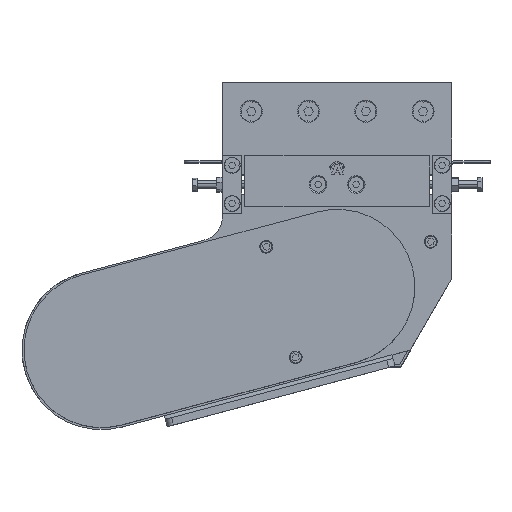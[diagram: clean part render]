
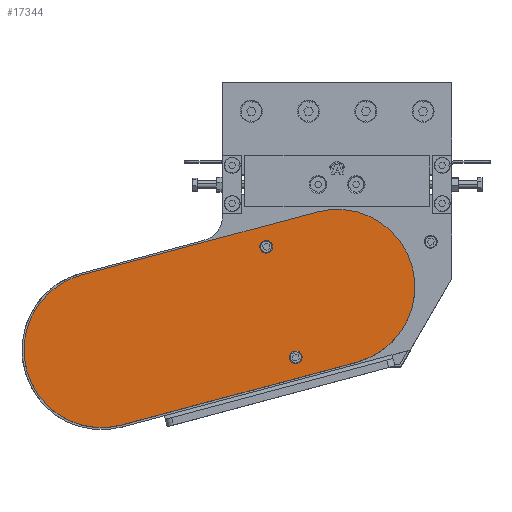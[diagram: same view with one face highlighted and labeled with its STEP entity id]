
A CAD part, top view. The second image highlights one B-rep face of the part: STEP entity #17344.
In plain terms, the highlighted planar face has unit normal (0, 0, 1) as drawn and (0, 0, -1) by its records, which use the part's own axes.
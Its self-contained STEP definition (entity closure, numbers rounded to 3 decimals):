
#339 = DIRECTION ( 'NONE',  ( 1., 0., 0. ) ) ;
#630 = EDGE_CURVE ( 'NONE', #16766, #52866, #44586, .T. ) ;
#922 = DIRECTION ( 'NONE',  ( 0., 0., -1. ) ) ;
#3132 = DIRECTION ( 'NONE',  ( 0., 0., -1. ) ) ;
#3209 = ORIENTED_EDGE ( 'NONE', *, *, #27816, .F. ) ;
#4373 = CIRCLE ( 'NONE', #30734, 3.5 ) ;
#4822 = AXIS2_PLACEMENT_3D ( 'NONE', #43902, #3132, #25763 ) ;
#5170 = AXIS2_PLACEMENT_3D ( 'NONE', #26416, #35172, #58345 ) ;
#5422 = EDGE_CURVE ( 'NONE', #53361, #45382, #15660, .T. ) ;
#5525 = ORIENTED_EDGE ( 'NONE', *, *, #30483, .F. ) ;
#5886 = CARTESIAN_POINT ( 'NONE',  ( -48.5, 145.75, 0. ) ) ;
#6415 = CARTESIAN_POINT ( 'NONE',  ( 45., 145.75, 0. ) ) ;
#9303 = LINE ( 'NONE', #33008, #34180 ) ;
#9843 = CARTESIAN_POINT ( 'NONE',  ( -61., 191.5, 0. ) ) ;
#10067 = CARTESIAN_POINT ( 'NONE',  ( -45., 145.75, 0. ) ) ;
#10578 = CIRCLE ( 'NONE', #28695, 3.5 ) ;
#11189 = CARTESIAN_POINT ( 'NONE',  ( 41.5, 145.75, 0. ) ) ;
#12346 = EDGE_CURVE ( 'NONE', #57444, #32580, #4373, .T. ) ;
#12837 = EDGE_CURVE ( 'NONE', #45382, #16766, #9303, .T. ) ;
#13181 = CARTESIAN_POINT ( 'NONE',  ( -61., 0., 0. ) ) ;
#14088 = DIRECTION ( 'NONE',  ( 0., 0., -1. ) ) ;
#14220 = ORIENTED_EDGE ( 'NONE', *, *, #5422, .F. ) ;
#15266 = AXIS2_PLACEMENT_3D ( 'NONE', #19034, #27977, #339 ) ;
#15660 = CIRCLE ( 'NONE', #15266, 61. ) ;
#16766 = VERTEX_POINT ( 'NONE', #49851 ) ;
#17344 = ADVANCED_FACE ( 'NONE', ( #38800, #48065, #53051 ), #54528, .F. ) ;
#19034 = CARTESIAN_POINT ( 'NONE',  ( 0., 0., 0. ) ) ;
#19151 = EDGE_LOOP ( 'NONE', ( #30453, #28434 ) ) ;
#19486 = DIRECTION ( 'NONE',  ( 0., 1., 0. ) ) ;
#19859 = EDGE_CURVE ( 'NONE', #55674, #33378, #58487, .T. ) ;
#20241 = CARTESIAN_POINT ( 'NONE',  ( -41.5, 145.75, 0. ) ) ;
#21564 = VECTOR ( 'NONE', #49207, 1000. ) ;
#21567 = ORIENTED_EDGE ( 'NONE', *, *, #630, .F. ) ;
#23213 = DIRECTION ( 'NONE',  ( 0., 0., 1. ) ) ;
#23877 = ORIENTED_EDGE ( 'NONE', *, *, #12837, .F. ) ;
#24001 = DIRECTION ( 'NONE',  ( 1., 0., 0. ) ) ;
#25763 = DIRECTION ( 'NONE',  ( 1., 0., 0. ) ) ;
#26416 = CARTESIAN_POINT ( 'NONE',  ( 0., 191.5, 0. ) ) ;
#26651 = ORIENTED_EDGE ( 'NONE', *, *, #19859, .F. ) ;
#27816 = EDGE_CURVE ( 'NONE', #52866, #53361, #57959, .T. ) ;
#27977 = DIRECTION ( 'NONE',  ( 0., 0., 1. ) ) ;
#28434 = ORIENTED_EDGE ( 'NONE', *, *, #12346, .F. ) ;
#28695 = AXIS2_PLACEMENT_3D ( 'NONE', #32570, #14088, #36941 ) ;
#30453 = ORIENTED_EDGE ( 'NONE', *, *, #53730, .F. ) ;
#30483 = EDGE_CURVE ( 'NONE', #33378, #55674, #31972, .T. ) ;
#30734 = AXIS2_PLACEMENT_3D ( 'NONE', #6415, #47608, #48000 ) ;
#31972 = CIRCLE ( 'NONE', #51520, 3.5 ) ;
#32570 = CARTESIAN_POINT ( 'NONE',  ( 45., 145.75, 0. ) ) ;
#32580 = VERTEX_POINT ( 'NONE', #58348 ) ;
#33008 = CARTESIAN_POINT ( 'NONE',  ( 61., 191.5, 0. ) ) ;
#33378 = VERTEX_POINT ( 'NONE', #5886 ) ;
#34180 = VECTOR ( 'NONE', #19486, 1000. ) ;
#35172 = DIRECTION ( 'NONE',  ( 0., 0., 1. ) ) ;
#36546 = CARTESIAN_POINT ( 'NONE',  ( 0., 191.5, 0. ) ) ;
#36673 = AXIS2_PLACEMENT_3D ( 'NONE', #36546, #23213, #54906 ) ;
#36941 = DIRECTION ( 'NONE',  ( 1., 0., 0. ) ) ;
#38731 = EDGE_LOOP ( 'NONE', ( #26651, #5525 ) ) ;
#38800 = FACE_BOUND ( 'NONE', #38731, .T. ) ;
#39672 = CARTESIAN_POINT ( 'NONE',  ( -61., 191.5, 0. ) ) ;
#41683 = CARTESIAN_POINT ( 'NONE',  ( 61., 0., 0. ) ) ;
#43902 = CARTESIAN_POINT ( 'NONE',  ( -45., 145.75, 0. ) ) ;
#44586 = CIRCLE ( 'NONE', #5170, 61. ) ;
#45382 = VERTEX_POINT ( 'NONE', #41683 ) ;
#47608 = DIRECTION ( 'NONE',  ( 0., 0., -1. ) ) ;
#48000 = DIRECTION ( 'NONE',  ( 1., 0., 0. ) ) ;
#48065 = FACE_BOUND ( 'NONE', #19151, .T. ) ;
#49207 = DIRECTION ( 'NONE',  ( 0., -1., 0. ) ) ;
#49851 = CARTESIAN_POINT ( 'NONE',  ( 61., 191.5, 0. ) ) ;
#51520 = AXIS2_PLACEMENT_3D ( 'NONE', #10067, #922, #24001 ) ;
#52866 = VERTEX_POINT ( 'NONE', #9843 ) ;
#53051 = FACE_OUTER_BOUND ( 'NONE', #55786, .T. ) ;
#53361 = VERTEX_POINT ( 'NONE', #13181 ) ;
#53730 = EDGE_CURVE ( 'NONE', #32580, #57444, #10578, .T. ) ;
#54528 = PLANE ( 'NONE',  #36673 ) ;
#54906 = DIRECTION ( 'NONE',  ( 1., 0., 0. ) ) ;
#55674 = VERTEX_POINT ( 'NONE', #20241 ) ;
#55786 = EDGE_LOOP ( 'NONE', ( #21567, #23877, #14220, #3209 ) ) ;
#57444 = VERTEX_POINT ( 'NONE', #11189 ) ;
#57959 = LINE ( 'NONE', #39672, #21564 ) ;
#58345 = DIRECTION ( 'NONE',  ( 1., 0., 0. ) ) ;
#58348 = CARTESIAN_POINT ( 'NONE',  ( 48.5, 145.75, 0. ) ) ;
#58487 = CIRCLE ( 'NONE', #4822, 3.5 ) ;
